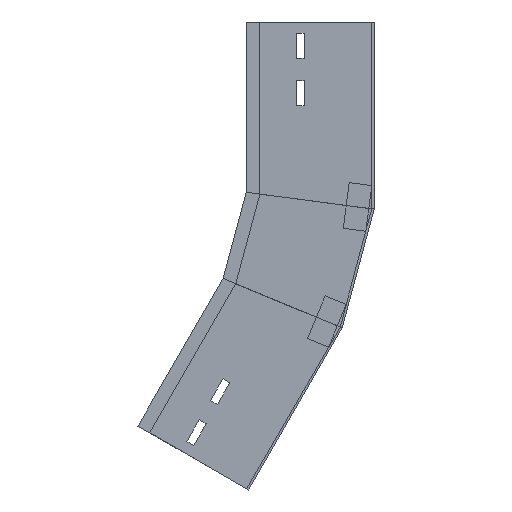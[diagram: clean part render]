
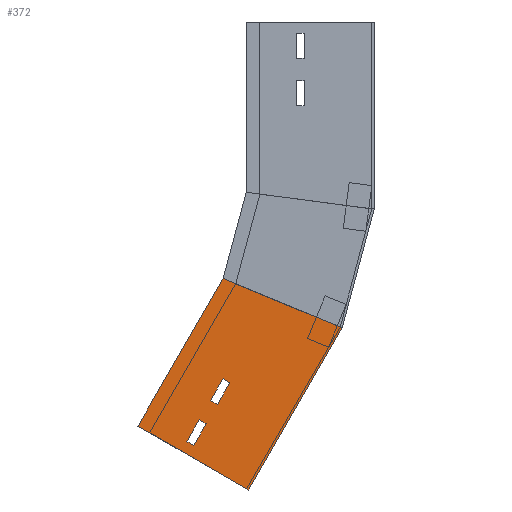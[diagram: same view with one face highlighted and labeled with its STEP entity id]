
A CAD part, left-side view. The second image highlights one B-rep face of the part: STEP entity #372.
In plain terms, the highlighted planar face has unit normal (-1, 0, 0) as drawn and (1, 0, 0) by its records, which use the part's own axes.
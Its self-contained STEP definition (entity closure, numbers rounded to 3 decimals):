
#12 = FACE_BOUND ( 'NONE', #1048, .T. ) ;
#56 = VECTOR ( 'NONE', #304, 1000. ) ;
#60 = EDGE_CURVE ( 'NONE', #597, #684, #218, .T. ) ;
#119 = CARTESIAN_POINT ( 'NONE',  ( 0., 68.5, -73.505 ) ) ;
#123 = PLANE ( 'NONE',  #721 ) ;
#135 = VERTEX_POINT ( 'NONE', #148 ) ;
#138 = EDGE_CURVE ( 'NONE', #947, #1410, #369, .T. ) ;
#148 = CARTESIAN_POINT ( 'NONE',  ( 0., 0., 0. ) ) ;
#155 = VECTOR ( 'NONE', #1144, 1000. ) ;
#174 = VECTOR ( 'NONE', #1094, 1000. ) ;
#198 = DIRECTION ( 'NONE',  ( 0., 0., 1. ) ) ;
#210 = EDGE_CURVE ( 'NONE', #1193, #1473, #739, .T. ) ;
#216 = CARTESIAN_POINT ( 'NONE',  ( 0., 68.5, -31.835 ) ) ;
#218 = LINE ( 'NONE', #695, #155 ) ;
#220 = CARTESIAN_POINT ( 'NONE',  ( 0., 112.5, 0. ) ) ;
#247 = DIRECTION ( 'NONE',  ( 0., 1., 0. ) ) ;
#272 = DIRECTION ( 'NONE',  ( 0., 0., -1. ) ) ;
#284 = VECTOR ( 'NONE', #703, 1000. ) ;
#304 = DIRECTION ( 'NONE',  ( 0., 1., 0. ) ) ;
#307 = VECTOR ( 'NONE', #1237, 1000. ) ;
#313 = CARTESIAN_POINT ( 'NONE',  ( 0., 112.5, 0. ) ) ;
#318 = CARTESIAN_POINT ( 'NONE',  ( 0., 61.5, -73.505 ) ) ;
#369 = LINE ( 'NONE', #836, #805 ) ;
#372 = ADVANCED_FACE ( 'NONE', ( #998, #806, #12 ), #123, .F. ) ;
#399 = VERTEX_POINT ( 'NONE', #220 ) ;
#441 = DIRECTION ( 'NONE',  ( 0., -1., 0. ) ) ;
#447 = EDGE_CURVE ( 'NONE', #749, #831, #1468, .T. ) ;
#450 = EDGE_CURVE ( 'NONE', #1268, #1141, #1134, .T. ) ;
#460 = LINE ( 'NONE', #1002, #284 ) ;
#479 = DIRECTION ( 'NONE',  ( 0., 0., -1. ) ) ;
#497 = EDGE_CURVE ( 'NONE', #399, #1268, #895, .T. ) ;
#514 = LINE ( 'NONE', #736, #882 ) ;
#523 = VECTOR ( 'NONE', #1067, 1000. ) ;
#559 = VECTOR ( 'NONE', #198, 1000. ) ;
#573 = LINE ( 'NONE', #1470, #1462 ) ;
#597 = VERTEX_POINT ( 'NONE', #119 ) ;
#619 = EDGE_LOOP ( 'NONE', ( #1423, #1106, #657, #633 ) ) ;
#633 = ORIENTED_EDGE ( 'NONE', *, *, #916, .T. ) ;
#644 = ORIENTED_EDGE ( 'NONE', *, *, #1201, .T. ) ;
#657 = ORIENTED_EDGE ( 'NONE', *, *, #60, .T. ) ;
#676 = EDGE_CURVE ( 'NONE', #1410, #597, #460, .T. ) ;
#684 = VERTEX_POINT ( 'NONE', #318 ) ;
#695 = CARTESIAN_POINT ( 'NONE',  ( 0., 68.5, -73.505 ) ) ;
#696 = CARTESIAN_POINT ( 'NONE',  ( 0., 68.5, -9.835 ) ) ;
#703 = DIRECTION ( 'NONE',  ( 0., 0., -1. ) ) ;
#721 = AXIS2_PLACEMENT_3D ( 'NONE', #1137, #1370, #1033 ) ;
#727 = CARTESIAN_POINT ( 'NONE',  ( 0., 61.5, -9.835 ) ) ;
#736 = CARTESIAN_POINT ( 'NONE',  ( 0., 0., 0. ) ) ;
#739 = LINE ( 'NONE', #1437, #523 ) ;
#749 = VERTEX_POINT ( 'NONE', #1117 ) ;
#751 = EDGE_CURVE ( 'NONE', #1473, #749, #573, .T. ) ;
#764 = CARTESIAN_POINT ( 'NONE',  ( 0., 61.5, -51.505 ) ) ;
#805 = VECTOR ( 'NONE', #247, 1000. ) ;
#806 = FACE_OUTER_BOUND ( 'NONE', #1083, .T. ) ;
#824 = ORIENTED_EDGE ( 'NONE', *, *, #210, .T. ) ;
#831 = VERTEX_POINT ( 'NONE', #928 ) ;
#836 = CARTESIAN_POINT ( 'NONE',  ( 0., 68.5, -51.505 ) ) ;
#845 = ORIENTED_EDGE ( 'NONE', *, *, #447, .T. ) ;
#846 = ORIENTED_EDGE ( 'NONE', *, *, #1412, .F. ) ;
#871 = CARTESIAN_POINT ( 'NONE',  ( 0., 0., 0. ) ) ;
#882 = VECTOR ( 'NONE', #272, 1000. ) ;
#891 = CARTESIAN_POINT ( 'NONE',  ( 0., 21.301, -161.796 ) ) ;
#895 = LINE ( 'NONE', #313, #1419 ) ;
#916 = EDGE_CURVE ( 'NONE', #684, #947, #1432, .T. ) ;
#920 = ORIENTED_EDGE ( 'NONE', *, *, #497, .F. ) ;
#928 = CARTESIAN_POINT ( 'NONE',  ( 0., 61.5, -31.835 ) ) ;
#947 = VERTEX_POINT ( 'NONE', #982 ) ;
#982 = CARTESIAN_POINT ( 'NONE',  ( 0., 61.5, -51.505 ) ) ;
#998 = FACE_BOUND ( 'NONE', #619, .T. ) ;
#1002 = CARTESIAN_POINT ( 'NONE',  ( 0., 68.5, -51.505 ) ) ;
#1004 = CARTESIAN_POINT ( 'NONE',  ( 0., 68.5, -51.505 ) ) ;
#1033 = DIRECTION ( 'NONE',  ( 0., 0., 1. ) ) ;
#1048 = EDGE_LOOP ( 'NONE', ( #824, #1071, #845, #644 ) ) ;
#1061 = ORIENTED_EDGE ( 'NONE', *, *, #1348, .T. ) ;
#1063 = CARTESIAN_POINT ( 'NONE',  ( 0., 0., -164.6 ) ) ;
#1067 = DIRECTION ( 'NONE',  ( 0., 1., 0. ) ) ;
#1071 = ORIENTED_EDGE ( 'NONE', *, *, #751, .T. ) ;
#1083 = EDGE_LOOP ( 'NONE', ( #920, #846, #1061, #1167 ) ) ;
#1094 = DIRECTION ( 'NONE',  ( 0., 0., 1. ) ) ;
#1106 = ORIENTED_EDGE ( 'NONE', *, *, #676, .T. ) ;
#1117 = CARTESIAN_POINT ( 'NONE',  ( 0., 68.5, -31.835 ) ) ;
#1134 = LINE ( 'NONE', #891, #307 ) ;
#1137 = CARTESIAN_POINT ( 'NONE',  ( 0., 0., 0. ) ) ;
#1141 = VERTEX_POINT ( 'NONE', #1063 ) ;
#1144 = DIRECTION ( 'NONE',  ( 0., -1., 0. ) ) ;
#1167 = ORIENTED_EDGE ( 'NONE', *, *, #450, .F. ) ;
#1193 = VERTEX_POINT ( 'NONE', #727 ) ;
#1201 = EDGE_CURVE ( 'NONE', #831, #1193, #1219, .T. ) ;
#1219 = LINE ( 'NONE', #1346, #559 ) ;
#1237 = DIRECTION ( 'NONE',  ( 0., -0.991, -0.131 ) ) ;
#1268 = VERTEX_POINT ( 'NONE', #1339 ) ;
#1270 = DIRECTION ( 'NONE',  ( 0., 0., -1. ) ) ;
#1339 = CARTESIAN_POINT ( 'NONE',  ( 0., 112.5, -149.789 ) ) ;
#1346 = CARTESIAN_POINT ( 'NONE',  ( 0., 61.5, -9.835 ) ) ;
#1348 = EDGE_CURVE ( 'NONE', #135, #1141, #514, .T. ) ;
#1352 = LINE ( 'NONE', #871, #56 ) ;
#1370 = DIRECTION ( 'NONE',  ( -1., 0., 0. ) ) ;
#1410 = VERTEX_POINT ( 'NONE', #1004 ) ;
#1412 = EDGE_CURVE ( 'NONE', #135, #399, #1352, .T. ) ;
#1419 = VECTOR ( 'NONE', #479, 1000. ) ;
#1423 = ORIENTED_EDGE ( 'NONE', *, *, #138, .T. ) ;
#1432 = LINE ( 'NONE', #764, #174 ) ;
#1437 = CARTESIAN_POINT ( 'NONE',  ( 0., 68.5, -9.835 ) ) ;
#1462 = VECTOR ( 'NONE', #1270, 1000. ) ;
#1468 = LINE ( 'NONE', #216, #1491 ) ;
#1470 = CARTESIAN_POINT ( 'NONE',  ( 0., 68.5, -9.835 ) ) ;
#1473 = VERTEX_POINT ( 'NONE', #696 ) ;
#1491 = VECTOR ( 'NONE', #441, 1000. ) ;
